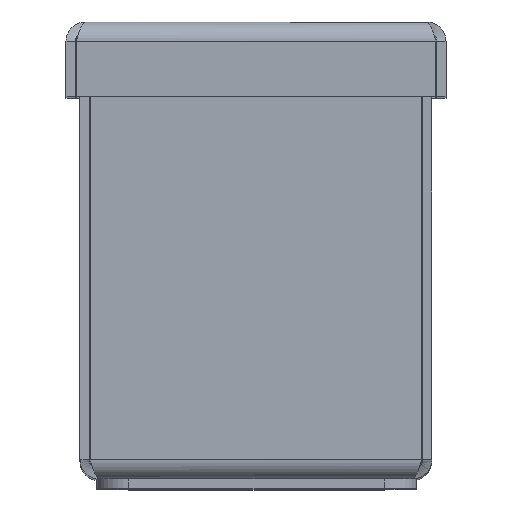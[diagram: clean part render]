
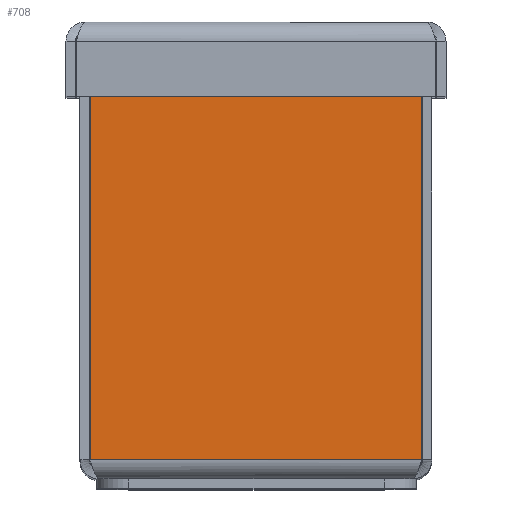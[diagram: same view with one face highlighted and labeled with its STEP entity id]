
A CAD part, top view. The second image highlights one B-rep face of the part: STEP entity #708.
In plain terms, the highlighted planar face has unit normal (0, 0, 1).
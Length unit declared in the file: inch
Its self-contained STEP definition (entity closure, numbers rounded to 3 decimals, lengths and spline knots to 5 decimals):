
#708 = ADVANCED_FACE ( 'NONE', ( #6008 ), #6007, .F. ) ;
#709 = EDGE_LOOP ( 'NONE', ( #710, #8677, #8674, #3065, #8676, #2914, #8683, #2998, #2995, #3066, #8687, #4571 ) ) ;
#710 = ORIENTED_EDGE ( 'NONE', *, *, #711, .F. ) ;
#711 = EDGE_CURVE ( 'NONE', #2990, #8678, #6002, .T. ) ;
#2137 = DIRECTION ( 'NONE',  ( -1., 0., 0. ) ) ;
#2138 = VECTOR ( 'NONE', #2137, 39.37008 ) ;
#2140 = CARTESIAN_POINT ( 'NONE',  ( -1.375, 3.5, 3.625 ) ) ;
#2141 = LINE ( 'NONE', #2140, #2138 ) ;
#2439 = EDGE_CURVE ( 'NONE', #2517, #2999, #6229, .T. ) ;
#2517 = VERTEX_POINT ( 'NONE', #6224 ) ;
#2743 = CARTESIAN_POINT ( 'NONE',  ( 1.29593, 0.152, 3.625 ) ) ;
#2744 = DIRECTION ( 'NONE',  ( -1., 0., 0. ) ) ;
#2745 = VECTOR ( 'NONE', #2744, 39.37008 ) ;
#2746 = CARTESIAN_POINT ( 'NONE',  ( -1.375, 0.152, 3.625 ) ) ;
#2747 = LINE ( 'NONE', #2746, #2745 ) ;
#2748 = DIRECTION ( 'NONE',  ( 0., 1., 0. ) ) ;
#2749 = VECTOR ( 'NONE', #2748, 39.37008 ) ;
#2750 = CARTESIAN_POINT ( 'NONE',  ( 1.29593, 3.5, 3.625 ) ) ;
#2751 = LINE ( 'NONE', #2750, #2749 ) ;
#2752 = CARTESIAN_POINT ( 'NONE',  ( 1.29593, 3.5, 3.625 ) ) ;
#2753 = CARTESIAN_POINT ( 'NONE',  ( -1.29593, 3.5, 3.625 ) ) ;
#2754 = CARTESIAN_POINT ( 'NONE',  ( -0.444, 3.348, 3.625 ) ) ;
#2755 = DIRECTION ( 'NONE',  ( 0., -1., 0. ) ) ;
#2756 = VECTOR ( 'NONE', #2755, 39.37008 ) ;
#2757 = CARTESIAN_POINT ( 'NONE',  ( -0.516, 3.5, 3.625 ) ) ;
#2758 = LINE ( 'NONE', #2757, #2756 ) ;
#2763 = DIRECTION ( 'NONE',  ( -1., 0., 0. ) ) ;
#2764 = VECTOR ( 'NONE', #2763, 39.37008 ) ;
#2765 = CARTESIAN_POINT ( 'NONE',  ( 0.444, 3.348, 3.625 ) ) ;
#2766 = LINE ( 'NONE', #2765, #2764 ) ;
#2767 = CARTESIAN_POINT ( 'NONE',  ( 0.516, 3.5, 3.625 ) ) ;
#2768 = DIRECTION ( 'NONE',  ( 0., 1., 0. ) ) ;
#2769 = VECTOR ( 'NONE', #2768, 39.37008 ) ;
#2770 = CARTESIAN_POINT ( 'NONE',  ( -0.444, 3.5, 3.625 ) ) ;
#2771 = LINE ( 'NONE', #2770, #2769 ) ;
#2914 = ORIENTED_EDGE ( 'NONE', *, *, #2439, .F. ) ;
#2986 = VERTEX_POINT ( 'NONE', #6271 ) ;
#2987 = EDGE_CURVE ( 'NONE', #2988, #2990, #6270, .T. ) ;
#2988 = VERTEX_POINT ( 'NONE', #6265 ) ;
#2990 = VERTEX_POINT ( 'NONE', #6264 ) ;
#2991 = EDGE_CURVE ( 'NONE', #2993, #8685, #6263, .T. ) ;
#2992 = EDGE_CURVE ( 'NONE', #2986, #2988, #6259, .T. ) ;
#2993 = VERTEX_POINT ( 'NONE', #6255 ) ;
#2994 = EDGE_CURVE ( 'NONE', #2996, #8685, #6254, .T. ) ;
#2995 = ORIENTED_EDGE ( 'NONE', *, *, #2994, .F. ) ;
#2996 = VERTEX_POINT ( 'NONE', #6250 ) ;
#2998 = ORIENTED_EDGE ( 'NONE', *, *, #2991, .T. ) ;
#2999 = VERTEX_POINT ( 'NONE', #6249 ) ;
#3065 = ORIENTED_EDGE ( 'NONE', *, *, #8679, .T. ) ;
#3066 = ORIENTED_EDGE ( 'NONE', *, *, #8689, .F. ) ;
#4571 = ORIENTED_EDGE ( 'NONE', *, *, #4591, .T. ) ;
#4591 = EDGE_CURVE ( 'NONE', #8686, #8678, #2141, .T. ) ;
#5999 = DIRECTION ( 'NONE',  ( 0., 1., 0. ) ) ;
#6000 = VECTOR ( 'NONE', #5999, 39.37008 ) ;
#6001 = CARTESIAN_POINT ( 'NONE',  ( 0.516, 3.5, 3.625 ) ) ;
#6002 = LINE ( 'NONE', #6001, #6000 ) ;
#6003 = DIRECTION ( 'NONE',  ( -1., 0., 0. ) ) ;
#6004 = DIRECTION ( 'NONE',  ( 0., 0., -1. ) ) ;
#6005 = CARTESIAN_POINT ( 'NONE',  ( -1.375, 3.5, 3.625 ) ) ;
#6006 = AXIS2_PLACEMENT_3D ( 'NONE', #6005, #6004, #6003 ) ;
#6007 = PLANE ( 'NONE',  #6006 ) ;
#6008 = FACE_OUTER_BOUND ( 'NONE', #709, .T. ) ;
#6224 = CARTESIAN_POINT ( 'NONE',  ( -0.516, 3.276, 3.625 ) ) ;
#6225 = DIRECTION ( 'NONE',  ( -1., 0., 0. ) ) ;
#6226 = DIRECTION ( 'NONE',  ( 0., 0., 1. ) ) ;
#6227 = CARTESIAN_POINT ( 'NONE',  ( -0.48, 3.276, 3.625 ) ) ;
#6228 = AXIS2_PLACEMENT_3D ( 'NONE', #6227, #6226, #6225 ) ;
#6229 = CIRCLE ( 'NONE', #6228, 0.036 ) ;
#6249 = CARTESIAN_POINT ( 'NONE',  ( -0.444, 3.276, 3.625 ) ) ;
#6250 = CARTESIAN_POINT ( 'NONE',  ( -1.29593, 0.152, 3.625 ) ) ;
#6251 = DIRECTION ( 'NONE',  ( 0., 1., 0. ) ) ;
#6252 = VECTOR ( 'NONE', #6251, 39.37008 ) ;
#6253 = CARTESIAN_POINT ( 'NONE',  ( -1.29593, 0.072, 3.625 ) ) ;
#6254 = LINE ( 'NONE', #6253, #6252 ) ;
#6255 = CARTESIAN_POINT ( 'NONE',  ( -0.516, 3.5, 3.625 ) ) ;
#6256 = DIRECTION ( 'NONE',  ( 0., -1., 0. ) ) ;
#6257 = VECTOR ( 'NONE', #6256, 39.37008 ) ;
#6258 = CARTESIAN_POINT ( 'NONE',  ( 0.444, 3.5, 3.625 ) ) ;
#6259 = LINE ( 'NONE', #6258, #6257 ) ;
#6260 = DIRECTION ( 'NONE',  ( -1., 0., 0. ) ) ;
#6261 = VECTOR ( 'NONE', #6260, 39.37008 ) ;
#6262 = CARTESIAN_POINT ( 'NONE',  ( -1.375, 3.5, 3.625 ) ) ;
#6263 = LINE ( 'NONE', #6262, #6261 ) ;
#6264 = CARTESIAN_POINT ( 'NONE',  ( 0.516, 3.276, 3.625 ) ) ;
#6265 = CARTESIAN_POINT ( 'NONE',  ( 0.444, 3.276, 3.625 ) ) ;
#6266 = DIRECTION ( 'NONE',  ( -1., 0., 0. ) ) ;
#6267 = DIRECTION ( 'NONE',  ( 0., 0., 1. ) ) ;
#6268 = CARTESIAN_POINT ( 'NONE',  ( 0.48, 3.276, 3.625 ) ) ;
#6269 = AXIS2_PLACEMENT_3D ( 'NONE', #6268, #6267, #6266 ) ;
#6270 = CIRCLE ( 'NONE', #6269, 0.036 ) ;
#6271 = CARTESIAN_POINT ( 'NONE',  ( 0.444, 3.348, 3.625 ) ) ;
#8674 = ORIENTED_EDGE ( 'NONE', *, *, #2992, .F. ) ;
#8675 = EDGE_CURVE ( 'NONE', #2999, #8684, #2771, .T. ) ;
#8676 = ORIENTED_EDGE ( 'NONE', *, *, #8675, .F. ) ;
#8677 = ORIENTED_EDGE ( 'NONE', *, *, #2987, .F. ) ;
#8678 = VERTEX_POINT ( 'NONE', #2767 ) ;
#8679 = EDGE_CURVE ( 'NONE', #2986, #8684, #2766, .T. ) ;
#8682 = EDGE_CURVE ( 'NONE', #2993, #2517, #2758, .T. ) ;
#8683 = ORIENTED_EDGE ( 'NONE', *, *, #8682, .F. ) ;
#8684 = VERTEX_POINT ( 'NONE', #2754 ) ;
#8685 = VERTEX_POINT ( 'NONE', #2753 ) ;
#8686 = VERTEX_POINT ( 'NONE', #2752 ) ;
#8687 = ORIENTED_EDGE ( 'NONE', *, *, #8688, .T. ) ;
#8688 = EDGE_CURVE ( 'NONE', #8690, #8686, #2751, .T. ) ;
#8689 = EDGE_CURVE ( 'NONE', #8690, #2996, #2747, .T. ) ;
#8690 = VERTEX_POINT ( 'NONE', #2743 ) ;
